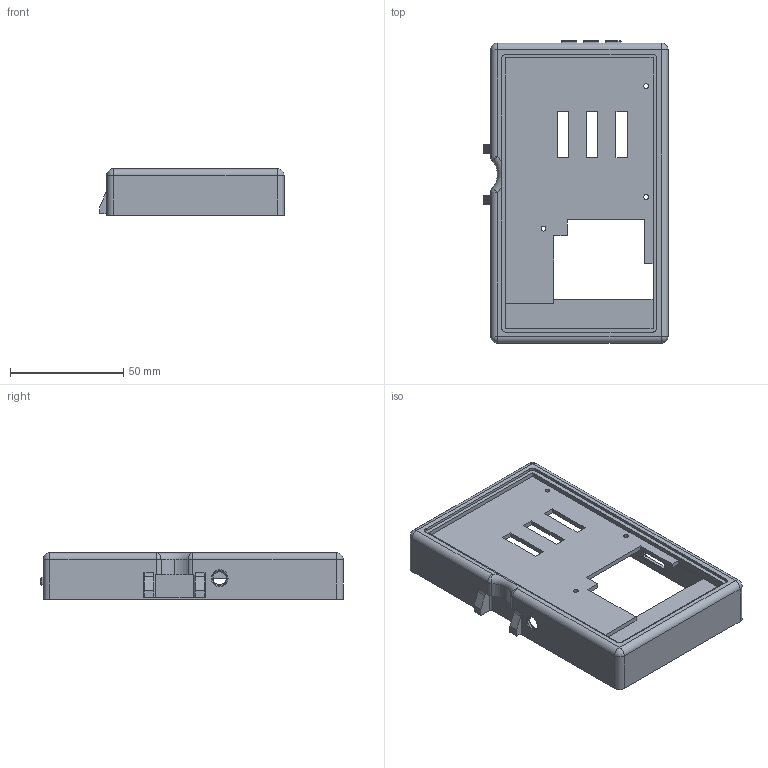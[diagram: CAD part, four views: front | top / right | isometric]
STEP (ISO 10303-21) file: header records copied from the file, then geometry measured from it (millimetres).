
FILE_DESCRIPTION (( 'STEP AP214' ), '1' );
FILE_NAME ('vim4_imx415_ts050_front_case_20_11_2024B.STEP', '2024-11-20T07:47:15', ( '' ), ( '' ), 'SwSTEP 2.0', 'SolidWorks 2018', '' );
FILE_SCHEMA (( 'AUTOMOTIVE_DESIGN' ));
Length unit declared in the file: millimetre
Products named in the file (1): vim4_imx415_ts050_front_case_20_11_2024B
Bounding box: 81.3 x 133.5 x 20.62 mm (x, y, z)
Volume: 37845.4 mm3; surface area: 34208 mm2
Topology: 1 solids, 1 shells, 377 faces, 1013 edges, 642 vertices
Faces by surface type: plane 214, cylinder 121, torus 21, bspline 11, sphere 6, cone 4
Entity records: 14900 total; most frequent: CARTESIAN_POINT 5287, ORIENTED_EDGE 2014, DIRECTION 1977, EDGE_CURVE 1007, VECTOR 687, LINE 687, AXIS2_PLACEMENT_3D 645, VERTEX_POINT 642
